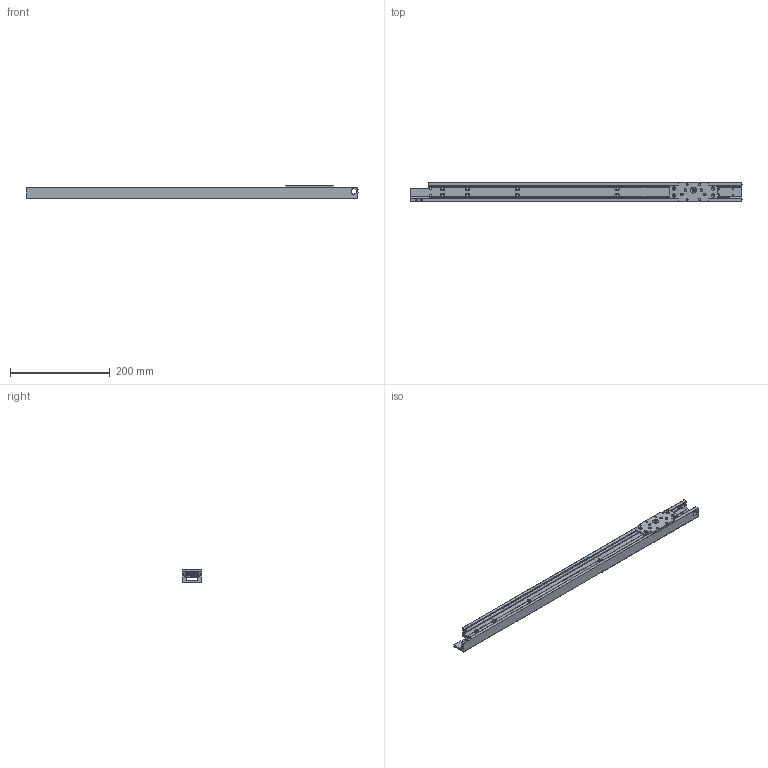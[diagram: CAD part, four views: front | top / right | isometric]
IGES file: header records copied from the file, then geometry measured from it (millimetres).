
Global section: file name:  ; native system: Kubotek KeyCreator; preprocessor: KCM Version 1.1.28; author: KeyCreator•p{ž; organization: Self; date: 20161130.234249; units: millimetre
Bounding box: 665 x 40 x 25.03 mm (x, y, z)
Surface area: 141723.4 mm2 (no closed solid volume)
Topology: 0 solids, 0 shells, 435 faces, 3186 edges, 3186 vertices
Faces by surface type: bspline 435
